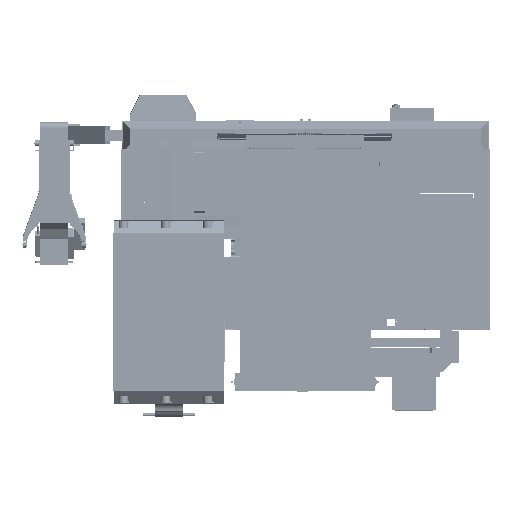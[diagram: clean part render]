
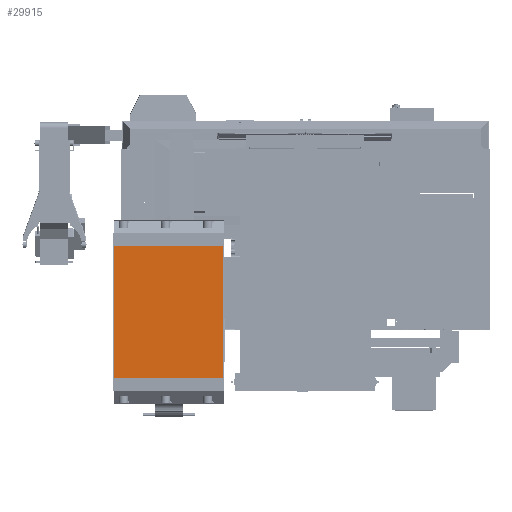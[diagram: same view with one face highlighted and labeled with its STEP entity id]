
A CAD part, front view. The second image highlights one B-rep face of the part: STEP entity #29915.
In plain terms, the highlighted planar face has unit normal (0, -1, 0).
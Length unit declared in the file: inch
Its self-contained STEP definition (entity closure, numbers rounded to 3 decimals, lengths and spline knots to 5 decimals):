
#13934 = VECTOR ( 'NONE', #266202, 39.37008 ) ;
#27574 = LINE ( 'NONE', #442696, #654133 ) ;
#29915 = ADVANCED_FACE ( 'NONE', ( #453989 ), #45610, .F. ) ;
#45610 = PLANE ( 'NONE',  #578966 ) ;
#62437 = DIRECTION ( 'NONE',  ( 0., 0., -1. ) ) ;
#147702 = DIRECTION ( 'NONE',  ( 0., 1., 0. ) ) ;
#149332 = CARTESIAN_POINT ( 'NONE',  ( -21.605, -19.4571, -22.54 ) ) ;
#150404 = ORIENTED_EDGE ( 'NONE', *, *, #209712, .F. ) ;
#155916 = CARTESIAN_POINT ( 'NONE',  ( -68.105, -19.4571, -22.54 ) ) ;
#195509 = EDGE_CURVE ( 'NONE', #247797, #376729, #528542, .T. ) ;
#205182 = ORIENTED_EDGE ( 'NONE', *, *, #195509, .T. ) ;
#209712 = EDGE_CURVE ( 'NONE', #247797, #579093, #27574, .T. ) ;
#232722 = CARTESIAN_POINT ( 'NONE',  ( -68.105, -19.4571, 33.76 ) ) ;
#247797 = VERTEX_POINT ( 'NONE', #232722 ) ;
#255650 = VERTEX_POINT ( 'NONE', #149332 ) ;
#266202 = DIRECTION ( 'NONE',  ( 0., 0., -1. ) ) ;
#292869 = DIRECTION ( 'NONE',  ( 1., 0., 0. ) ) ;
#308810 = CARTESIAN_POINT ( 'NONE',  ( -68.105, -19.4571, -22.54 ) ) ;
#317306 = LINE ( 'NONE', #524876, #13934 ) ;
#321689 = ORIENTED_EDGE ( 'NONE', *, *, #670342, .T. ) ;
#376729 = VERTEX_POINT ( 'NONE', #155916 ) ;
#396996 = EDGE_CURVE ( 'NONE', #579093, #255650, #317306, .T. ) ;
#442696 = CARTESIAN_POINT ( 'NONE',  ( -68.21, -19.4571, 33.76 ) ) ;
#453989 = FACE_OUTER_BOUND ( 'NONE', #498413, .T. ) ;
#460691 = DIRECTION ( 'NONE',  ( 0., 0., 1. ) ) ;
#479012 = VECTOR ( 'NONE', #567403, 39.37008 ) ;
#498413 = EDGE_LOOP ( 'NONE', ( #150404, #205182, #321689, #606325 ) ) ;
#512680 = CARTESIAN_POINT ( 'NONE',  ( -68.105, -19.4571, 39.16 ) ) ;
#524876 = CARTESIAN_POINT ( 'NONE',  ( -21.605, -19.4571, 39.16 ) ) ;
#528542 = LINE ( 'NONE', #512680, #570057 ) ;
#551473 = LINE ( 'NONE', #308810, #479012 ) ;
#567403 = DIRECTION ( 'NONE',  ( 1., 0., 0. ) ) ;
#570057 = VECTOR ( 'NONE', #62437, 39.37008 ) ;
#578966 = AXIS2_PLACEMENT_3D ( 'NONE', #617127, #147702, #460691 ) ;
#579093 = VERTEX_POINT ( 'NONE', #626046 ) ;
#606325 = ORIENTED_EDGE ( 'NONE', *, *, #396996, .F. ) ;
#617127 = CARTESIAN_POINT ( 'NONE',  ( -68.105, -19.4571, 39.16 ) ) ;
#626046 = CARTESIAN_POINT ( 'NONE',  ( -21.605, -19.4571, 33.76 ) ) ;
#654133 = VECTOR ( 'NONE', #292869, 39.37008 ) ;
#670342 = EDGE_CURVE ( 'NONE', #376729, #255650, #551473, .T. ) ;
